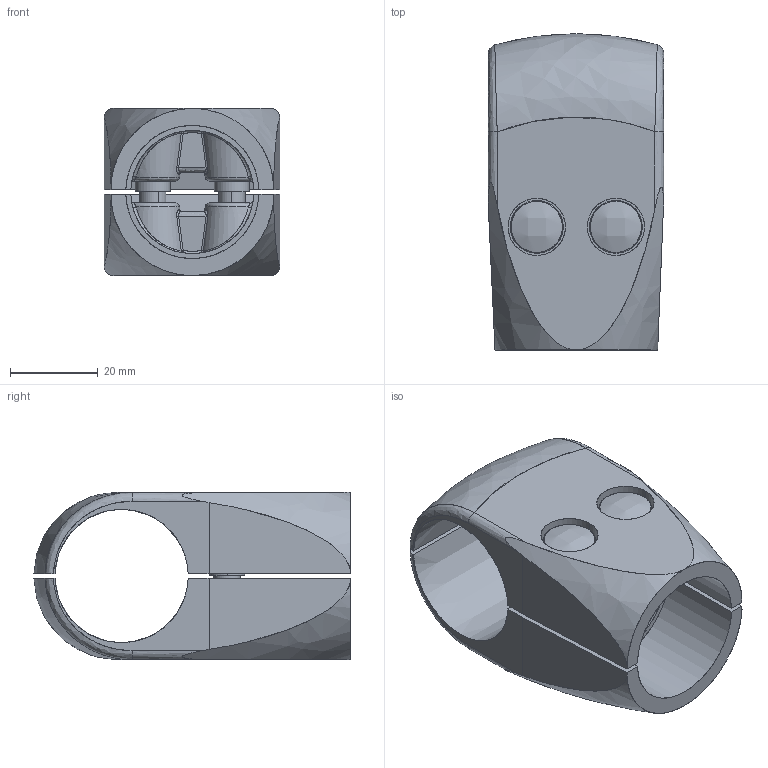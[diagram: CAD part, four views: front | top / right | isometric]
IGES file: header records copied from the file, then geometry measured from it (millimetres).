
Start section: SolidWorks IGES file using analytic representation for surfaces
Global section: file name: C:\Users\Gerard\OneDrive - Tecnodin, S.L\Escritorio\30 mm Verbinder im step. Format\31000410002.IGS; native system: SolidWorks 2016; preprocessor: SolidWorks 2016; author: Gerard; date: 240902.114631; units: millimetre
Bounding box: 39.85 x 71.95 x 38 mm (x, y, z)
Surface area: 22968.2 mm2 (no closed solid volume)
Topology: 0 solids, 0 shells, 214 faces, 3218 edges, 3210 vertices
Faces by surface type: bspline 122, revolution 92
